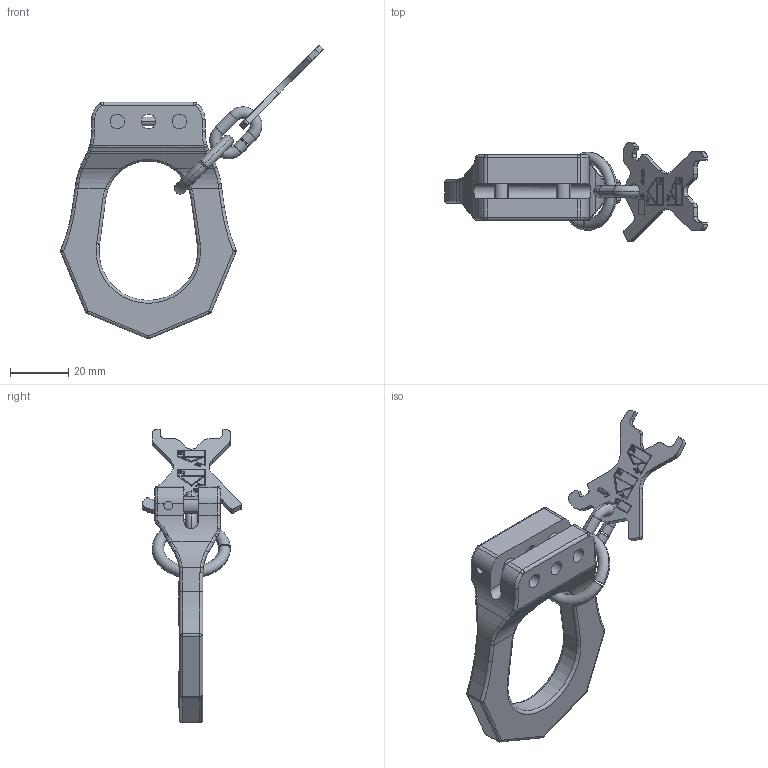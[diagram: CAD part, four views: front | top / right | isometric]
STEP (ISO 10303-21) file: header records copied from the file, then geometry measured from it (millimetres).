
FILE_DESCRIPTION((''),'2;1');
FILE_NAME('001-M34920-P-12_ASM','2017-09-14T',('Andreas.Wendler'),(''),'PRO/ENGINEER BY PARAMETRIC TECHNOLOGY CORPORATION, 2011490','PRO/ENGINEER BY PARAMETRIC TECHNOLOGY CORPORATION, 2011490','');
FILE_SCHEMA(('CONFIG_CONTROL_DESIGN'));
Length unit declared in the file: millimetre
Products named in the file (5): 001-M34920-P-12; 001-M31112-P-2; 001-M31129-P-10; 001-M34987-P-1; 001-M34920-P-12_ASM
Assembly tree (4 placements, depth 2):
  001-M34920-P-12_ASM
    001-M34920-P-12
    001-M31112-P-2
    001-M31129-P-10
    001-M34987-P-1
Bounding box: 90.48 x 34.24 x 101.08 mm (x, y, z)
Volume: 29515.9 mm3; surface area: 14215.2 mm2
Topology: 4 solids, 4 shells, 1061 faces, 2882 edges, 1882 vertices
Faces by surface type: plane 784, cylinder 165, bspline 40, extrusion 36, torus 26, sphere 10
Entity records: 34610 total; most frequent: CARTESIAN_POINT 7823, ORIENTED_EDGE 5764, DIRECTION 5130, EDGE_CURVE 2882, VECTOR 2374, LINE 2338, VERTEX_POINT 1882, AXIS2_PLACEMENT_3D 1378
